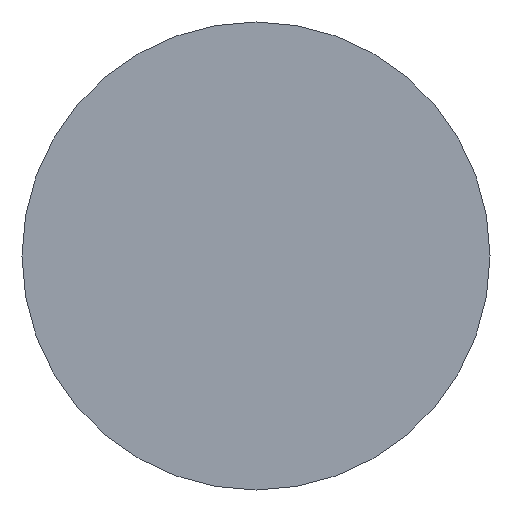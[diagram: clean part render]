
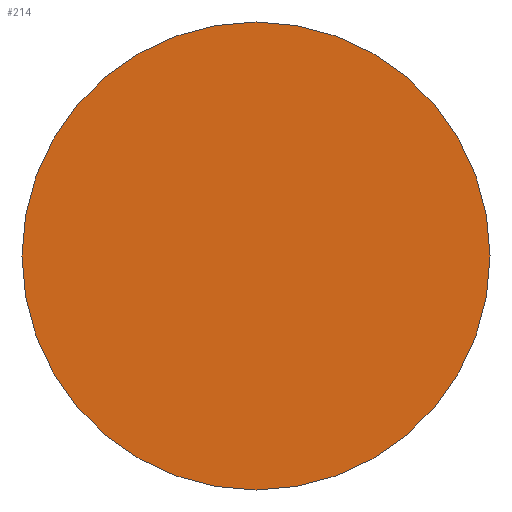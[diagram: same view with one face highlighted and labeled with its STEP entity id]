
A CAD part, front view. The second image highlights one B-rep face of the part: STEP entity #214.
In plain terms, the highlighted planar face has unit normal (0, -1, 0).
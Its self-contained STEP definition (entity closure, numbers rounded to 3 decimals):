
#22 = VERTEX_POINT ( 'NONE', #200 ) ;
#26 = EDGE_LOOP ( 'NONE', ( #50, #159 ) ) ;
#36 = FACE_OUTER_BOUND ( 'NONE', #26, .T. ) ;
#50 = ORIENTED_EDGE ( 'NONE', *, *, #174, .F. ) ;
#53 = AXIS2_PLACEMENT_3D ( 'NONE', #109, #129, #212 ) ;
#76 = CIRCLE ( 'NONE', #132, 5. ) ;
#82 = PLANE ( 'NONE',  #285 ) ;
#101 = CARTESIAN_POINT ( 'NONE',  ( 0., -7., 0. ) ) ;
#105 = CARTESIAN_POINT ( 'NONE',  ( 0., -7., -5. ) ) ;
#109 = CARTESIAN_POINT ( 'NONE',  ( 0., -7., 0. ) ) ;
#126 = DIRECTION ( 'NONE',  ( 0., 0., 1. ) ) ;
#129 = DIRECTION ( 'NONE',  ( 0., 1., 0. ) ) ;
#132 = AXIS2_PLACEMENT_3D ( 'NONE', #101, #286, #126 ) ;
#149 = CIRCLE ( 'NONE', #53, 5. ) ;
#159 = ORIENTED_EDGE ( 'NONE', *, *, #271, .F. ) ;
#164 = DIRECTION ( 'NONE',  ( 0., 1., 0. ) ) ;
#174 = EDGE_CURVE ( 'NONE', #273, #22, #149, .T. ) ;
#175 = CARTESIAN_POINT ( 'NONE',  ( 0., -7., 0. ) ) ;
#200 = CARTESIAN_POINT ( 'NONE',  ( 0., -7., 5. ) ) ;
#212 = DIRECTION ( 'NONE',  ( 0., 0., 1. ) ) ;
#214 = ADVANCED_FACE ( 'NONE', ( #36 ), #82, .F. ) ;
#267 = DIRECTION ( 'NONE',  ( 0., 0., 1. ) ) ;
#271 = EDGE_CURVE ( 'NONE', #22, #273, #76, .T. ) ;
#273 = VERTEX_POINT ( 'NONE', #105 ) ;
#285 = AXIS2_PLACEMENT_3D ( 'NONE', #175, #164, #267 ) ;
#286 = DIRECTION ( 'NONE',  ( 0., 1., 0. ) ) ;
